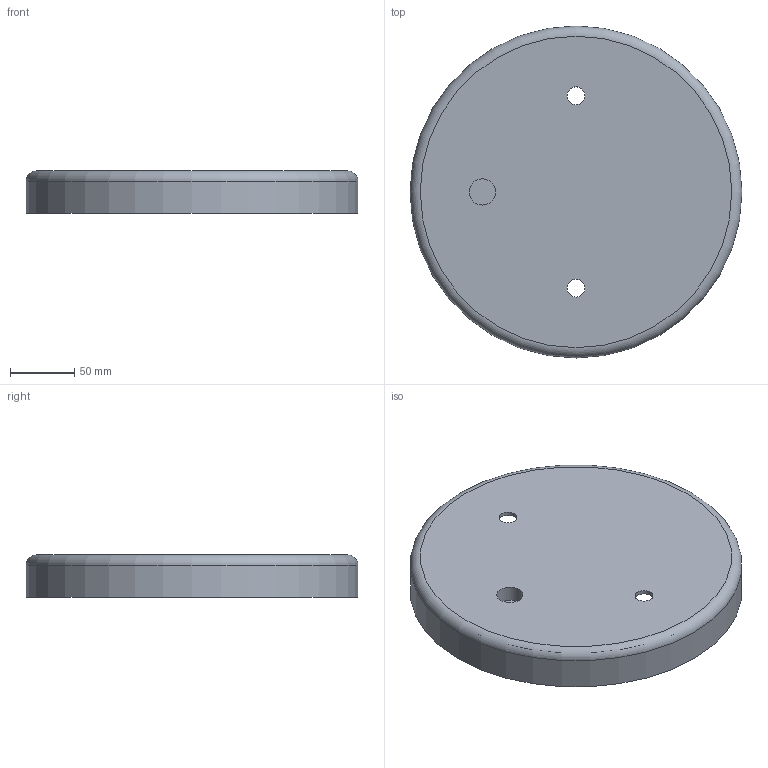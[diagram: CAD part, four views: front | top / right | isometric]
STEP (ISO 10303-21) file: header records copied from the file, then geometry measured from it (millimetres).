
FILE_DESCRIPTION(('Open CASCADE Model'),'2;1');
FILE_NAME('Open CASCADE Shape Model','2026-10-31T13:13:30',('Author'),( 'Open CASCADE'),'Open CASCADE STEP processor 7.9','Open CASCADE 7.9' ,'Unknown');
FILE_SCHEMA(('AUTOMOTIVE_DESIGN { 1 0 10303 214 1 1 1 1 }'));
Length unit declared in the file: millimetre
Products named in the file (1): Open CASCADE STEP translator 7.9 1
Bounding box: 259 x 259 x 33 mm (x, y, z)
Volume: 220710.3 mm3; surface area: 154654.7 mm2
Topology: 1 solids, 1 shells, 12 faces, 20 edges, 13 vertices
Faces by surface type: cylinder 6, plane 5, torus 1
Full cylindrical faces by diameter (mm): 14 x2, 20.5 x1, 26.5 x1, 253 x1, 259 x1
Entity records: 566 total; most frequent: DIRECTION 98, CARTESIAN_POINT 88, ORIENTED_EDGE 40, PCURVE 40, DEFINITIONAL_REPRESENTATION 40, LINE 32, VECTOR 32, AXIS2_PLACEMENT_3D 27
